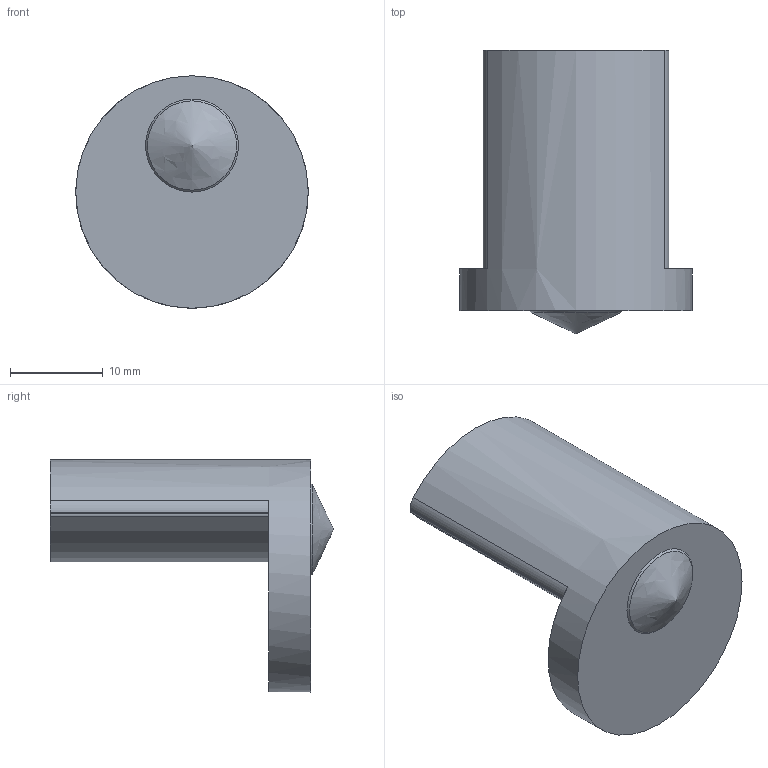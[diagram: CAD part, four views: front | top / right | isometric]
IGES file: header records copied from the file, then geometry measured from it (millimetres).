
Start section: Data from Parasolid IGES Translator 15.0.47, Copyright(c) 2006 Siemens P LM Software. All Rights Reserved.
Global section: file name: 9113705.igs; native system:  By UGS Corp.; preprocessor: XPlus GENERIC/IGES 3.0; author: Noname; organization: Noname; date: 20140122.160830; units: millimetre
Bounding box: 25 x 30.49 x 25 mm (x, y, z)
Surface area: 2630.8 mm2 (no closed solid volume)
Topology: 0 solids, 0 shells, 21 faces, 98 edges, 93 vertices
Faces by surface type: extrusion 11, revolution 10
